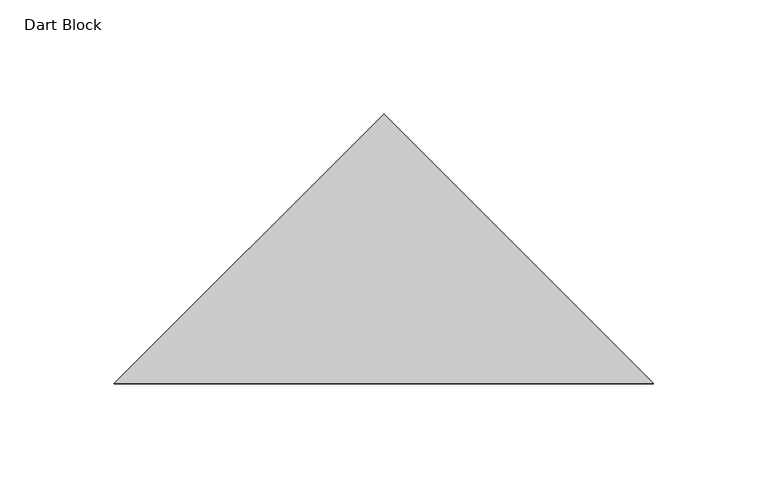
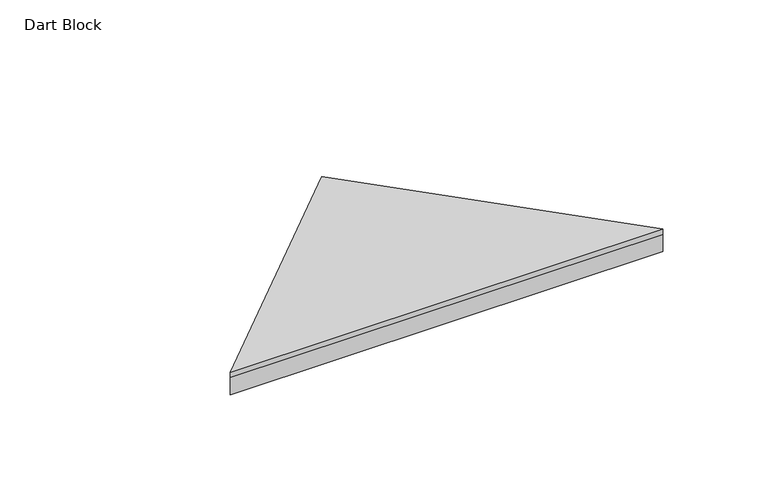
"""IFC4 building model written with IfcOpenShell, lengths in millimetres: proxy geometry, FilzFelt_Dart_Block : Dart Block."""

from ifc_helpers import new_model, si_unit, frame, origin, origin_with_axes, place, context, project, spatial, polyline, outline, extrude, source, transform, mapped, element, save


def dart_block_7aee04b3(model_context):
    return source(origin(), model_context, "Body", "SweptSolid", [
        extrude(outline(polyline([(0.0, 190.5), (118.4083878, 72.0916122), (-118.4083878, 72.0916122), (0.0, 190.5)])), frame((0.0, 0.0, 10.0210937), z_axis=(0.0, 0.0, 1.0), x_axis=(1.0, 0.0, 0.0)), (0.0, 0.0, 1.0), 2.9765625),
        extrude(outline(polyline([(-118.4083878, 72.0916122), (0.0, 190.5), (118.4083878, 72.0916122), (-118.4083878, 72.0916122)])), origin_with_axes(), (0.0, 0.0, 1.0), 10.0210938),
    ])


if __name__ == "__main__":
    model = new_model("IFC4")
    model_context = context("Model", 3, world=origin())
    ifc_project = project(units=[si_unit("LENGTHUNIT", "METRE", prefix="MILLI")], contexts=[model_context])
    site = spatial("IfcSite", under=ifc_project)
    building = spatial("IfcBuilding", under=site)
    placement = place(None, origin())
    dart_block_shape = dart_block_7aee04b3(model_context)
    element("IfcBuildingElementProxy", 1, Name="FilzFelt_Dart_Block : Dart Block", ObjectType="FilzFelt_Dart_Block : Dart Block", at=placement, inside=building, context=model_context, shape_type="MappedRepresentation", body=[
        mapped(dart_block_shape, transform((0.0, 0.0, 0.0), x_axis=(1.0, 0.0, 0.0), y_axis=(0.0, 1.0, 0.0), z_axis=(0.0, 0.0, 1.0))),
    ])
    save(model, "model.ifc")
